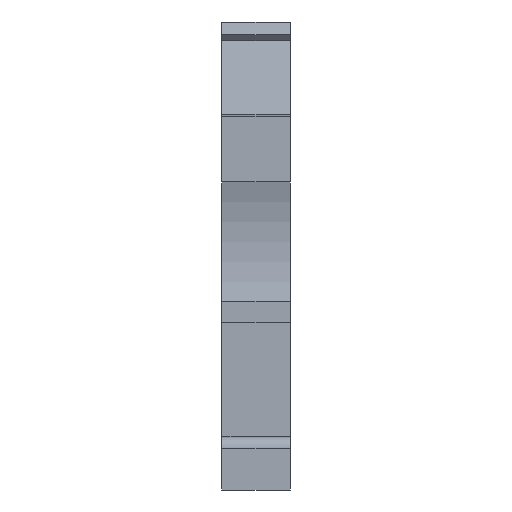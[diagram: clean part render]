
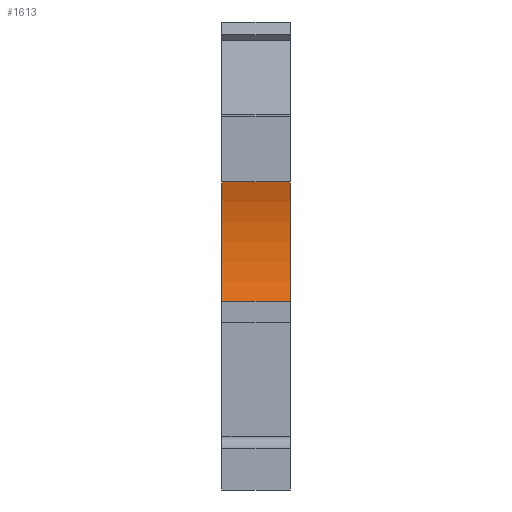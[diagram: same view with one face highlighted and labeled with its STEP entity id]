
A CAD part, front view. The second image highlights one B-rep face of the part: STEP entity #1613.
In plain terms, the highlighted cylindrical face has radius 15 mm (diameter 30 mm), a partial arc.
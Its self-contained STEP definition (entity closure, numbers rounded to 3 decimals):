
#1554=CARTESIAN_POINT('',(5.15,-14.309,18.7));
#1555=DIRECTION('',(-1.,0.,-0.));
#1556=DIRECTION('',(0.,1.,0.));
#1557=AXIS2_PLACEMENT_3D('',#1554,#1555,#1556);
#1558=CYLINDRICAL_SURFACE('',#1557,15.);
#1559=CARTESIAN_POINT('',(-0.,0.691,18.7));
#1560=VERTEX_POINT('',#1559);
#1561=CARTESIAN_POINT('',(-0.,0.,23.2));
#1562=VERTEX_POINT('',#1561);
#1563=CARTESIAN_POINT('',(-0.,-14.309,18.7));
#1564=DIRECTION('',(1.,-0.,0.));
#1565=DIRECTION('',(0.,1.,0.));
#1566=AXIS2_PLACEMENT_3D('',#1563,#1564,#1565);
#1567=CIRCLE('',#1566,15.);
#1568=EDGE_CURVE('',#1560,#1562,#1567,.T.);
#1569=ORIENTED_EDGE('',*,*,#1568,.F.);
#1570=CARTESIAN_POINT('',(-0.,0.,14.2));
#1571=VERTEX_POINT('',#1570);
#1572=CARTESIAN_POINT('',(-0.,-14.309,18.7));
#1573=DIRECTION('',(1.,-0.,0.));
#1574=DIRECTION('',(0.,1.,0.));
#1575=AXIS2_PLACEMENT_3D('',#1572,#1573,#1574);
#1576=CIRCLE('',#1575,15.);
#1577=EDGE_CURVE('',#1571,#1560,#1576,.T.);
#1578=ORIENTED_EDGE('',*,*,#1577,.F.);
#1579=CARTESIAN_POINT('',(5.15,0.,14.2));
#1580=VERTEX_POINT('',#1579);
#1581=CARTESIAN_POINT('',(-0.,0.,14.2));
#1582=DIRECTION('',(1.,-0.,0.));
#1583=VECTOR('',#1582,5.15);
#1584=LINE('',#1581,#1583);
#1585=EDGE_CURVE('',#1571,#1580,#1584,.T.);
#1586=ORIENTED_EDGE('',*,*,#1585,.T.);
#1587=CARTESIAN_POINT('',(5.15,0.691,18.7));
#1588=VERTEX_POINT('',#1587);
#1589=CARTESIAN_POINT('',(5.15,-14.309,18.7));
#1590=DIRECTION('',(1.,-0.,0.));
#1591=DIRECTION('',(0.,1.,0.));
#1592=AXIS2_PLACEMENT_3D('',#1589,#1590,#1591);
#1593=CIRCLE('',#1592,15.);
#1594=EDGE_CURVE('',#1580,#1588,#1593,.T.);
#1595=ORIENTED_EDGE('',*,*,#1594,.T.);
#1596=CARTESIAN_POINT('',(5.15,0.,23.2));
#1597=VERTEX_POINT('',#1596);
#1598=CARTESIAN_POINT('',(5.15,-14.309,18.7));
#1599=DIRECTION('',(1.,-0.,0.));
#1600=DIRECTION('',(0.,1.,0.));
#1601=AXIS2_PLACEMENT_3D('',#1598,#1599,#1600);
#1602=CIRCLE('',#1601,15.);
#1603=EDGE_CURVE('',#1588,#1597,#1602,.T.);
#1604=ORIENTED_EDGE('',*,*,#1603,.T.);
#1605=CARTESIAN_POINT('',(5.15,0.,23.2));
#1606=DIRECTION('',(-1.,0.,-0.));
#1607=VECTOR('',#1606,5.15);
#1608=LINE('',#1605,#1607);
#1609=EDGE_CURVE('',#1597,#1562,#1608,.T.);
#1610=ORIENTED_EDGE('',*,*,#1609,.T.);
#1611=EDGE_LOOP('',(#1569,#1578,#1586,#1595,#1604,#1610));
#1612=FACE_BOUND('',#1611,.T.);
#1613=ADVANCED_FACE('',(#1612),#1558,.F.);
